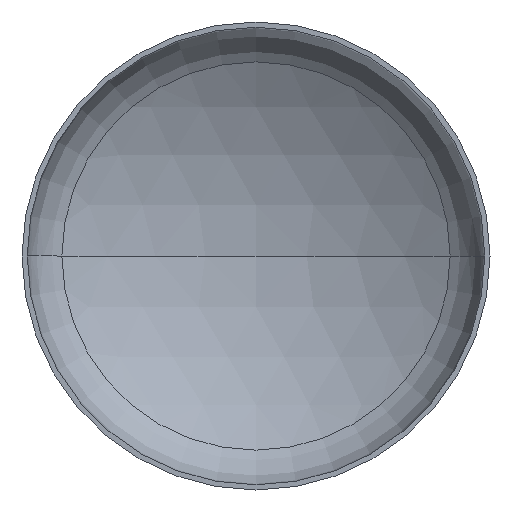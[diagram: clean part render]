
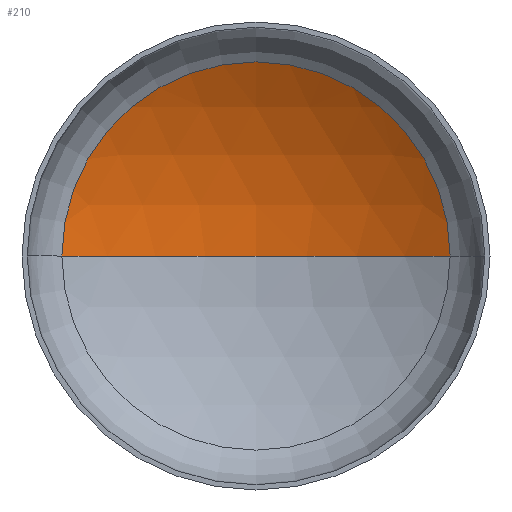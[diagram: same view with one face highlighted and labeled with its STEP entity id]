
A CAD part, front view. The second image highlights one B-rep face of the part: STEP entity #210.
In plain terms, the highlighted spherical face has radius 2080 mm.
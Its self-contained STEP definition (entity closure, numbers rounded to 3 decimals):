
#6 = ORIENTED_EDGE ( 'NONE', *, *, #372, .F. ) ;
#12 = CIRCLE ( 'NONE', #161, 1078.381 ) ;
#32 = CARTESIAN_POINT ( 'NONE',  ( 0., -1346.579, 0. ) ) ;
#39 = AXIS2_PLACEMENT_3D ( 'NONE', #32, #299, #129 ) ;
#65 = ORIENTED_EDGE ( 'NONE', *, *, #249, .T. ) ;
#73 = EDGE_LOOP ( 'NONE', ( #6, #82, #65 ) ) ;
#82 = ORIENTED_EDGE ( 'NONE', *, *, #252, .T. ) ;
#105 = DIRECTION ( 'NONE',  ( 0., 0., -1. ) ) ;
#109 = CARTESIAN_POINT ( 'NONE',  ( 0., -1346.579, 0. ) ) ;
#119 = VERTEX_POINT ( 'NONE', #248 ) ;
#128 = VERTEX_POINT ( 'NONE', #246 ) ;
#129 = DIRECTION ( 'NONE',  ( 1., 0., 0. ) ) ;
#143 = DIRECTION ( 'NONE',  ( 1., 0., 0. ) ) ;
#147 = VERTEX_POINT ( 'NONE', #250 ) ;
#156 = DIRECTION ( 'NONE',  ( 0., -1., 0. ) ) ;
#161 = AXIS2_PLACEMENT_3D ( 'NONE', #166, #156, #143 ) ;
#165 = AXIS2_PLACEMENT_3D ( 'NONE', #109, #105, #208 ) ;
#166 = CARTESIAN_POINT ( 'NONE',  ( 0., 432.043, 0. ) ) ;
#190 = AXIS2_PLACEMENT_3D ( 'NONE', #239, #268, #229 ) ;
#208 = DIRECTION ( 'NONE',  ( -1., 0., 0. ) ) ;
#210 = ADVANCED_FACE ( 'NONE', ( #388 ), #382, .F. ) ;
#229 = DIRECTION ( 'NONE',  ( -1., 0., 0. ) ) ;
#239 = CARTESIAN_POINT ( 'NONE',  ( 0., -1346.579, 0. ) ) ;
#246 = CARTESIAN_POINT ( 'NONE',  ( -1078.381, 432.043, 0. ) ) ;
#248 = CARTESIAN_POINT ( 'NONE',  ( 1078.381, 432.043, 0. ) ) ;
#249 = EDGE_CURVE ( 'NONE', #119, #128, #12, .T. ) ;
#250 = CARTESIAN_POINT ( 'NONE',  ( 0., 733.421, 0. ) ) ;
#252 = EDGE_CURVE ( 'NONE', #147, #119, #314, .T. ) ;
#268 = DIRECTION ( 'NONE',  ( 0., 0., -1. ) ) ;
#299 = DIRECTION ( 'NONE',  ( 0., 0., 1. ) ) ;
#314 = CIRCLE ( 'NONE', #165, 2080. ) ;
#347 = CIRCLE ( 'NONE', #39, 2080. ) ;
#372 = EDGE_CURVE ( 'NONE', #147, #128, #347, .T. ) ;
#382 = SPHERICAL_SURFACE ( 'NONE', #190, 2080. ) ;
#388 = FACE_OUTER_BOUND ( 'NONE', #73, .T. ) ;
